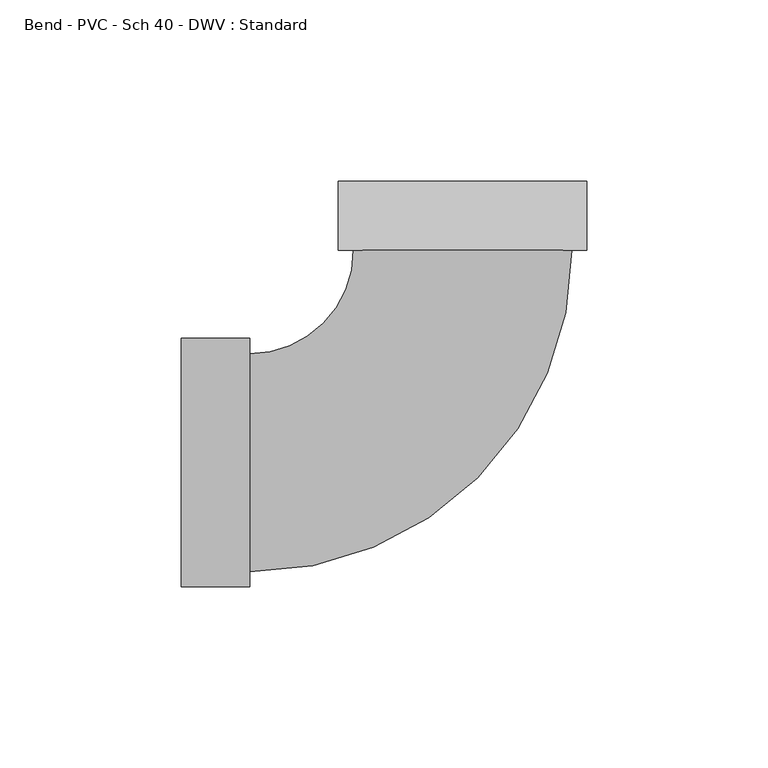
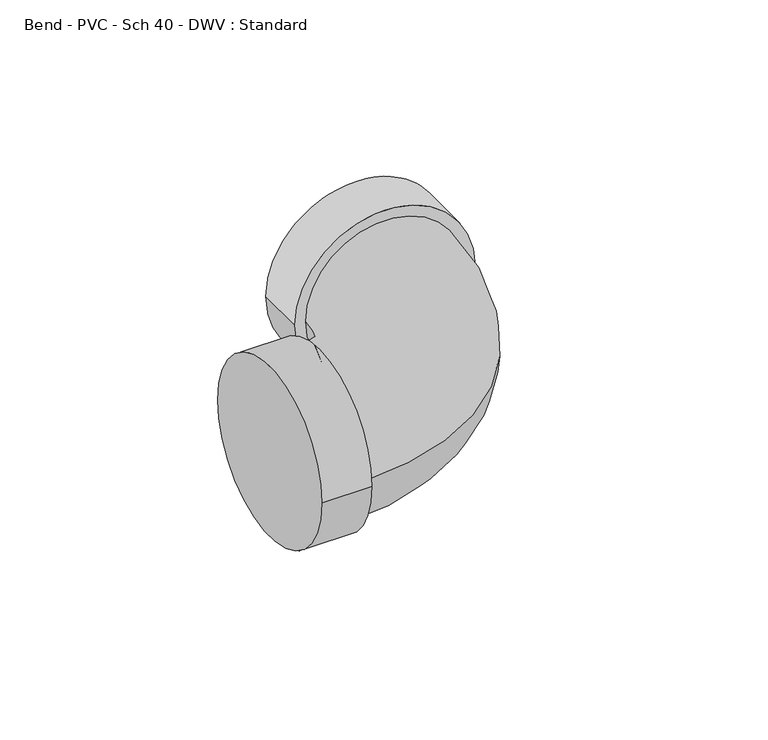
"""IFC4 building model written with IfcOpenShell, lengths in millimetres: pipe fitting geometry, Bend - PVC - Sch 40 - DWV : Standard."""

from ifc_helpers import new_model, si_unit, point, frame, origin, place, context, project, spatial, circle_curve, ellipse_curve, trimmed, source, transform, mapped, element, save
from ifc_brep_helpers import plane_surface, cylinder_surface, revolved_surface, advanced_brep


def bend_pvc_sch_40_dwv_standard_d40d7286(model_context):
    return source(origin(), model_context, "Body", "AdvancedBrep", [
        advanced_brep(
        [(-77.8002, -34.3154, 0.0), (-77.8002, 34.3154, 0.0), (-58.7502, -34.3154, 0.0), (-58.7502, 34.3154, 0.0), (-58.7502, -30.1625, 0.0), (-58.7502, 30.1625, 0.0), (-30.1624959, 58.7502021, 0.0), (30.1625041, 58.7501979, 0.0), (34.3154041, 58.7501976, 0.0), (-34.3153959, 58.7502024, 0.0), (34.3154054, 77.8001976, 0.0), (-34.3153946, 77.8002024, 0.0)],
        [
            (0, 1, circle_curve(frame((-77.8002, 0.0, 0.0), z_axis=(-1.0, 0.0, 0.0), x_axis=(0.0, 1.0, 0.0)), 34.3154)),
            (1, 0, circle_curve(frame((-77.8002, 0.0, 0.0), z_axis=(-1.0, 0.0, 0.0), x_axis=(0.0, 1.0, 0.0)), 34.3154)),
            (2, 3, circle_curve(frame((-58.7502, 0.0, 0.0), z_axis=(1.0, 0.0, 0.0), x_axis=(0.0, 1.0, 0.0)), 34.3154)),
            (3, 2, circle_curve(frame((-58.7502, 0.0, 0.0), z_axis=(1.0, 0.0, 0.0), x_axis=(0.0, 1.0, 0.0)), 34.3154)),
            (4, 5, circle_curve(frame((-58.7502, 0.0, 0.0), z_axis=(-1.0, 0.0, 0.0), x_axis=(0.0, 1.0, 0.0)), 30.1625)),
            (5, 4, circle_curve(frame((-58.7502, 0.0, 0.0), z_axis=(-1.0, 0.0, 0.0), x_axis=(0.0, 1.0, 0.0)), 30.1625)),
            (0, 2),
            (3, 1),
            (6, 5, circle_curve(frame((-58.7502, 58.7502041, 0.0), z_axis=(0.0, 0.0, -1.0), x_axis=(0.0, -1.0, 0.0)), 28.5877041)),
            (4, 7, circle_curve(frame((-58.7502, 58.7502041, 0.0), z_axis=(0.0, 0.0, 1.0), x_axis=(0.0, -1.0, 0.0)), 88.9127041)),
            (7, 6, circle_curve(frame((4.1e-06, 58.7502, 0.0), z_axis=(-6.910317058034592e-08, -0.9999999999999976, 0.0), x_axis=(-0.9999999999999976, 6.910317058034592e-08, 0.0)), 30.1625)),
            (6, 7, circle_curve(frame((4.1e-06, 58.7502, 0.0), z_axis=(-6.910317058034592e-08, -0.9999999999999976, 0.0), x_axis=(-0.9999999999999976, 6.910317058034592e-08, 0.0)), 30.1625)),
            (8, 9, circle_curve(frame((4.1e-06, 58.7502, 0.0), z_axis=(-6.91031722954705e-08, -0.9999999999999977, 0.0), x_axis=(-0.9999999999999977, 6.91031722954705e-08, 0.0)), 34.3154)),
            (9, 8, circle_curve(frame((4.1e-06, 58.7502, 0.0), z_axis=(-6.91031722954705e-08, -0.9999999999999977, 0.0), x_axis=(-0.9999999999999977, 6.91031722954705e-08, 0.0)), 34.3154)),
            (10, 11, circle_curve(frame((5.4e-06, 77.8002, 0.0), z_axis=(6.91031722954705e-08, 0.9999999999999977, 0.0), x_axis=(-0.9999999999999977, 6.91031722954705e-08, 0.0)), 34.3154)),
            (11, 10, circle_curve(frame((5.4e-06, 77.8002, 0.0), z_axis=(6.91031722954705e-08, 0.9999999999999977, 0.0), x_axis=(-0.9999999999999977, 6.91031722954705e-08, 0.0)), 34.3154)),
            (8, 10),
            (11, 9),
        ],
        [
            plane_surface(frame((-77.8002, 0.0, 0.0), z_axis=(-1.0, 0.0, 0.0), x_axis=(0.0, 0.0, 1.0))),
            plane_surface(frame((-58.7502, 0.0, 0.0), z_axis=(1.0, 0.0, 0.0), x_axis=(0.0, 0.0, 1.0))),
            cylinder_surface(frame((-77.8002, 0.0, 0.0), z_axis=(-1.0, 0.0, 0.0), x_axis=(0.0, 1.0, 0.0)), 34.3154),
            revolved_surface(trimmed(ellipse_curve(frame((-58.7502, 0.0, 0.0), z_axis=(-1.0, 0.0, 0.0), x_axis=(0.0, 1.0, 0.0)), 30.1625, 30.1625), [point((-58.7502, -30.1625, 0.0))], [point((-58.7502, 30.1625, 0.0))], True, "CARTESIAN"), (-58.7502, 58.7502041, 0.0), (0.0, 0.0, 1.0)),
            revolved_surface(trimmed(ellipse_curve(frame((-58.7502, 0.0, 0.0), z_axis=(-1.0, 0.0, 0.0), x_axis=(0.0, 1.0, 0.0)), 30.1625, 30.1625), [point((-58.7502, 30.1625, 0.0))], [point((-58.7502, -30.1625, 0.0))], True, "CARTESIAN"), (-58.7502, 58.7502041, 0.0), (0.0, 0.0, 1.0)),
            plane_surface(frame((4.1e-06, 58.7502, 0.0), z_axis=(-6.91031722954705e-08, -0.9999999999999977, 0.0), x_axis=(0.0, 0.0, 1.0))),
            plane_surface(frame((5.4e-06, 77.8002, 0.0), z_axis=(6.91031722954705e-08, 0.9999999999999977, 0.0), x_axis=(0.0, 0.0, 1.0))),
            cylinder_surface(frame((4.1e-06, 58.7502, 0.0), z_axis=(-6.91031722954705e-08, -0.9999999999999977, 0.0), x_axis=(-0.9999999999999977, 6.91031722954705e-08, 0.0)), 34.3154),
        ],
        [
            (0, [[1, 2]]),
            (1, [[3, 4], [5, 6]]),
            (2, [[-1, 7, -4, 8]]),
            (2, [[-2, -8, -3, -7]]),
            (3, [[9, -5, 10, 11]]),
            (4, [[-9, 12, -10, -6]]),
            (5, [[13, 14], [-11, -12]]),
            (6, [[15, 16]]),
            (7, [[-13, 17, -16, 18]]),
            (7, [[-14, -18, -15, -17]]),
        ],
    ),
    ])


if __name__ == "__main__":
    model = new_model("IFC4")
    model_context = context("Model", 3, world=origin())
    ifc_project = project(units=[si_unit("LENGTHUNIT", "METRE", prefix="MILLI")], contexts=[model_context])
    site = spatial("IfcSite", under=ifc_project)
    building = spatial("IfcBuilding", under=site)
    placement = place(None, origin())
    bend_pvc_sch_40_dwv_standard_shape = bend_pvc_sch_40_dwv_standard_d40d7286(model_context)
    element("IfcPipeFitting", 1, ObjectType="Bend - PVC - Sch 40 - DWV : Standard", at=placement, inside=building, context=model_context, shape_type="MappedRepresentation", body=[
        mapped(bend_pvc_sch_40_dwv_standard_shape, transform((0.0, 0.0, 0.0), x_axis=(1.0, 0.0, 0.0), y_axis=(0.0, 1.0, 0.0), z_axis=(0.0, 0.0, 1.0))),
    ])
    save(model, "model.ifc")
